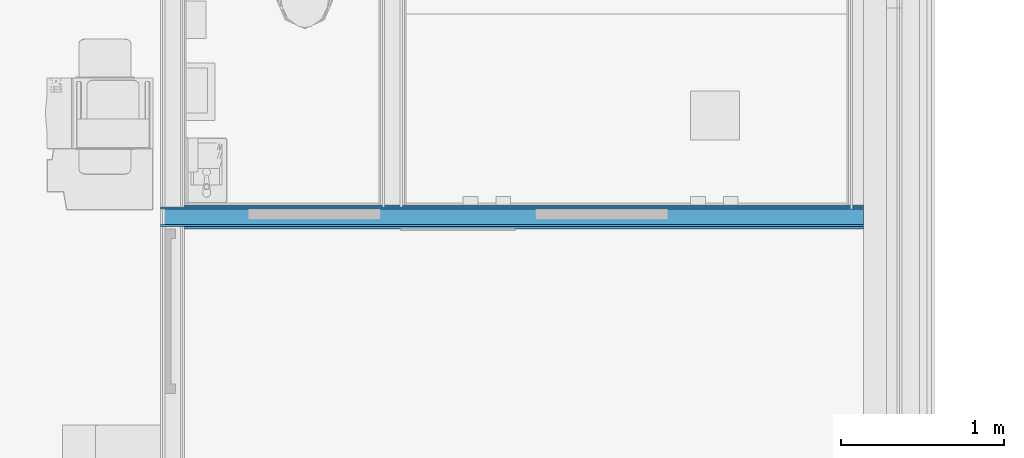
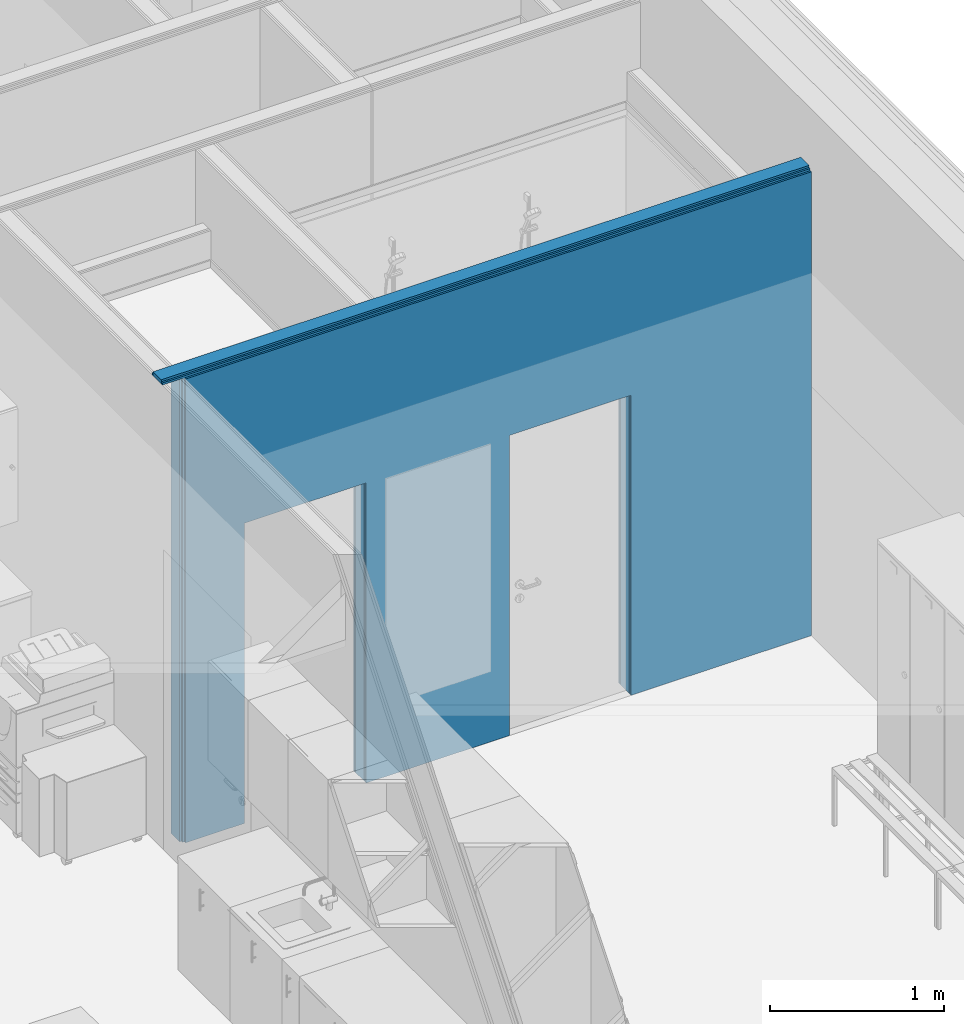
# One storey, part 78 of 153: 5 building element parts, 2 openings, 1 element without a shape of its own.
"""IFC2X3 building model written with IfcOpenShell, lengths in millimetres."""

import ifcopenshell
import ifcopenshell.guid

model = None  # the IFC model being written
_history = None  # IfcOwnerHistory: only IFC2X3 demands one
_inside = {}  # id of a spatial element -> (the spatial element, [elements in it])
_under = {}  # id of a project, library or spatial element -> (it, [spatial elements below it])
_declared = {}  # id of a project -> (the project, [libraries it declares])
_typed = {}  # id of a type object -> (the type object, [elements of that type])
_made_of = {}  # id of a material, layer set ... -> (it, [elements and type objects made of it])


def new_model(schema):
    """Start an empty IFC model of exactly this schema.

    Asked for "IFC4X3", IfcOpenShell would pick the latest addendum, in which some entities
    have other attributes; the version numbers below select the first issue.
    IFC2X3 requires an IfcOwnerHistory on every rooted entity: one is made here for all.
    """
    global model, _history
    if schema == "IFC4X3":
        model = ifcopenshell.file(schema_version=(4, 3, 0, 0))
    else:
        model = ifcopenshell.file(schema=schema)
    _inside.clear()
    _under.clear()
    _declared.clear()
    _typed.clear()
    _made_of.clear()
    _history = None
    if model.schema == "IFC2X3":
        org = make("IfcOrganization", Name="unknown")
        user = make(
            "IfcPersonAndOrganization",
            ThePerson=make("IfcPerson", FamilyName="unknown"),
            TheOrganization=org,
        )
        app = make(
            "IfcApplication",
            ApplicationDeveloper=org,
            Version="unknown",
            ApplicationFullName="unknown",
            ApplicationIdentifier="unknown",
        )
        _history = make(
            "IfcOwnerHistory",
            OwningUser=user,
            OwningApplication=app,
            ChangeAction="ADDED",
            CreationDate=0,
        )
    return model


def make(cls, **values):
    """One entity of the class cls with the attributes given. An attribute that is None is left unset."""
    return model.create_entity(
        cls, **{name: value for name, value in values.items() if value is not None}
    )


def entity(cls, *values):
    """Any entity or typed value of the class cls, its attributes in the order of the schema. None: left unset."""
    e = model.create_entity(cls)
    for i, value in enumerate(values):
        if value is not None:
            e[i] = value
    return e


def rooted(cls, **values):
    """An entity with a GlobalId (a new one), such as an element, a storey or a relation."""
    return make(cls, GlobalId=ifcopenshell.guid.new(), OwnerHistory=_history, **values)


def si_unit(unit_type, name, prefix=None):
    """IfcSIUnit, for example si_unit("LENGTHUNIT", "METRE", prefix="MILLI")."""
    return make("IfcSIUnit", UnitType=unit_type, Prefix=prefix, Name=name)


def converted_unit(unit_type, name, factor, base, dimensions=None, offset=None):
    """IfcConversionBasedUnit, such as the inch: factor (a typed value) times the base unit."""
    return make(
        "IfcConversionBasedUnit"
        if offset is None
        else "IfcConversionBasedUnitWithOffset",
        ConversionOffset=offset,
        Dimensions=None
        if dimensions is None
        else entity("IfcDimensionalExponents", *dimensions),
        UnitType=unit_type,
        Name=name,
        ConversionFactor=make(
            "IfcMeasureWithUnit", ValueComponent=factor, UnitComponent=base
        ),
    )


def derived_unit(unit_type, elements):
    """IfcDerivedUnit: a product of units, each with its exponent."""
    return make(
        "IfcDerivedUnit",
        Elements=[
            make("IfcDerivedUnitElement", Unit=unit, Exponent=power)
            for unit, power in elements
        ],
        UnitType=unit_type,
    )


def money_unit(currency):
    """IfcMonetaryUnit."""
    return make("IfcMonetaryUnit", Currency=currency)


def assignment(units):
    """IfcUnitAssignment: the units of a project."""
    return None if units is None else make("IfcUnitAssignment", Units=units)


def point(xyz):
    """IfcCartesianPoint."""
    return None if xyz is None else make("IfcCartesianPoint", Coordinates=xyz)


def direction(xyz):
    """IfcDirection."""
    return None if xyz is None else make("IfcDirection", DirectionRatios=xyz)


def frame(location, z_axis=None, x_axis=None):
    """IfcAxis2Placement3D, a coordinate frame: its origin and axes. An axis left out is left unset."""
    return make(
        "IfcAxis2Placement3D",
        Location=point(location),
        Axis=direction(z_axis),
        RefDirection=direction(x_axis),
    )


def origin_with_axes():
    """The frame at (0, 0, 0) with the z axis (0, 0, 1) and the x axis (1, 0, 0) written out."""
    return frame((0.0, 0.0, 0.0), z_axis=(0.0, 0.0, 1.0), x_axis=(1.0, 0.0, 0.0))


def place(relative_to, where):
    """IfcLocalPlacement: puts the frame where relative to a parent placement (None: the world)."""
    return make(
        "IfcLocalPlacement", PlacementRelTo=relative_to, RelativePlacement=where
    )


def context(
    kind, dimensions, precision=None, world=None, true_north=None, identifier=None
):
    """IfcGeometricRepresentationContext, for example the 3D "Model" context."""
    return make(
        "IfcGeometricRepresentationContext",
        ContextIdentifier=identifier,
        ContextType=kind,
        CoordinateSpaceDimension=dimensions,
        Precision=precision,
        WorldCoordinateSystem=world,
        TrueNorth=true_north,
    )


def subcontext(parent, identifier, kind, view, scale=None):
    """IfcGeometricRepresentationSubContext, for example "Body" below "Model"."""
    return make(
        "IfcGeometricRepresentationSubContext",
        ContextIdentifier=identifier,
        ContextType=kind,
        ParentContext=parent,
        TargetScale=scale,
        TargetView=view,
    )


def project(units=None, contexts=None):
    """IfcProject with its units and contexts."""
    return rooted(
        "IfcProject",
        Name="project",
        RepresentationContexts=contexts,
        UnitsInContext=assignment(units),
    )


def spatial(cls, under=None, at=None, **own):
    """A site, building, storey or space (cls), placed at a placement, below another one or the project."""
    s = rooted(cls, ObjectPlacement=at, **own)
    if under is not None:
        _under.setdefault(under.id(), (under, []))[1].append(s)
    return s


def faces_of(points, faces, orient=None, outer=None):
    """IfcFace entities. A face is a list of loops; a loop is a list of indices into points, from 0.

    orient and outer hold one flag for each loop. By default every Orientation is true, the
    first loop of a face is its IfcFaceOuterBound and the others are IfcFaceBound.
    """
    made = []
    for i, loops in enumerate(faces):
        bounds = []
        for j, loop in enumerate(loops):
            is_outer = j == 0 if outer is None else outer[i][j]
            bounds.append(
                make(
                    "IfcFaceOuterBound" if is_outer else "IfcFaceBound",
                    Bound=make("IfcPolyLoop", Polygon=[points[k] for k in loop]),
                    Orientation=True if orient is None else orient[i][j],
                )
            )
        made.append(make("IfcFace", Bounds=bounds))
    return made


def faceted_brep(points, faces, orient=None, outer=None, voids=None):
    """IfcFacetedBrep: a solid bounded by flat faces; with voids (closed shells), ...WithVoids."""
    shared = [point(p) for p in points]
    hull = make("IfcClosedShell", CfsFaces=faces_of(shared, faces, orient, outer))
    if voids is None:
        return make("IfcFacetedBrep", Outer=hull)
    return make(
        "IfcFacetedBrepWithVoids",
        Outer=hull,
        Voids=[
            make(cls, CfsFaces=faces_of(shared, fs, o, b)) for cls, fs, o, b in voids
        ],
    )


def shape(context_of_items, identifier, shape_type, items):
    """IfcShapeRepresentation: the items that make up one representation, for example the "Body"."""
    return make(
        "IfcShapeRepresentation",
        ContextOfItems=context_of_items,
        RepresentationIdentifier=identifier,
        RepresentationType=shape_type,
        Items=items,
    )


def material(Name=None, Category=None):
    """IfcMaterial."""
    return make("IfcMaterial", Name=Name, Category=Category)


def made_of(thing, what):
    """Note that an element or type object is made of a material, layer set ...; save() writes the relation."""
    if what is not None:
        _made_of.setdefault(what.id(), (what, []))[1].append(thing)
    return thing


def type_object(cls, material=None, **own):
    """A type object (cls), such as IfcWallType, which elements share."""
    return made_of(rooted(cls, **own), material)


def element(
    cls,
    number,
    at=None,
    inside=None,
    cuts=None,
    type_object=None,
    material=None,
    context=None,
    identifier="Body",
    shape_type=None,
    held_by="IfcProductDefinitionShape",
    body=None,
    shapes=None,
    **own,
):
    """One element of the class cls, such as IfcWall. Its Tag is "e" and its number.

    at: its placement. inside: the storey or other place that contains it. cuts: it is an
    opening in that element (IfcRelVoidsElement). A single representation is given by context,
    identifier, shape_type and body (its items); several are given by shapes. held_by: the class
    of the entity that holds the representations. save() writes the other relations.
    """
    e = rooted(cls, Tag="e%d" % number, ObjectPlacement=at, **own)
    if body is not None:
        shapes = [shape(context, identifier, shape_type, body)]
    if shapes is not None:
        e.Representation = make(held_by, Representations=shapes)
    if inside is not None:
        _inside.setdefault(inside.id(), (inside, []))[1].append(e)
    if cuts is not None:
        rooted(
            "IfcRelVoidsElement", RelatingBuildingElement=cuts, RelatedOpeningElement=e
        )
    if type_object is not None:
        _typed.setdefault(type_object.id(), (type_object, []))[1].append(e)
    return made_of(e, material)


def aggregate(whole, parts):
    """IfcRelAggregates: a whole, such as a stair, and the parts it consists of."""
    return rooted("IfcRelAggregates", RelatingObject=whole, RelatedObjects=parts)


def save(model, path):
    """Write the relations noted so far, then the file.

    IfcRelAggregates (storeys below a building ...), IfcRelContainedInSpatialStructure (elements
    in a storey), IfcRelDefinesByType, IfcRelAssociatesMaterial and IfcRelDeclares: one each for
    every whole, place, type object, material and project.
    """
    for whole, parts in _under.values():
        aggregate(whole, parts)
    for where, things in _inside.values():
        rooted(
            "IfcRelContainedInSpatialStructure",
            RelatedElements=things,
            RelatingStructure=where,
        )
    for kind, things in _typed.values():
        rooted("IfcRelDefinesByType", RelatedObjects=things, RelatingType=kind)
    for what, things in _made_of.values():
        rooted("IfcRelAssociatesMaterial", RelatedObjects=things, RelatingMaterial=what)
    for by, libraries in _declared.values():
        rooted("IfcRelDeclares", RelatingContext=by, RelatedDefinitions=libraries)
    model.write(path)


model = new_model("IFC2X3")

# Units and contexts
model_context = context("Model", 3, precision=0.01, world=origin_with_axes(), true_north=direction((0.0, 1.0)))
body_context = subcontext(model_context, "Body", "Model", "MODEL_VIEW")
ifc_project = project(units=[si_unit("LENGTHUNIT", "METRE", prefix="MILLI"), si_unit("AREAUNIT", "SQUARE_METRE"), si_unit("VOLUMEUNIT", "CUBIC_METRE"), converted_unit("PLANEANGLEUNIT", "DEGREE", entity("IfcPlaneAngleMeasure", 0.0174532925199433), si_unit("PLANEANGLEUNIT", "RADIAN"), dimensions=[0, 0, 0, 0, 0, 0, 0]), money_unit("EUR"), converted_unit("TIMEUNIT", "Year", entity("IfcTimeMeasure", 31557600.0), si_unit("TIMEUNIT", "SECOND"), dimensions=[0, 0, 1, 0, 0, 0, 0]), si_unit("MASSUNIT", "GRAM", prefix="KILO"), si_unit("THERMODYNAMICTEMPERATUREUNIT", "DEGREE_CELSIUS"), si_unit("LUMINOUSINTENSITYUNIT", "LUMEN"), si_unit("ENERGYUNIT", "JOULE", prefix="MEGA"), derived_unit("THERMALCONDUCTANCEUNIT", [(si_unit("POWERUNIT", "WATT"), 1), (si_unit("LENGTHUNIT", "METRE"), -1), (si_unit("THERMODYNAMICTEMPERATUREUNIT", "KELVIN"), -1)]), derived_unit("SPECIFICHEATCAPACITYUNIT", [(si_unit("ENERGYUNIT", "JOULE"), 1), (si_unit("MASSUNIT", "GRAM", prefix="KILO"), -1), (si_unit("THERMODYNAMICTEMPERATUREUNIT", "KELVIN"), -1)]), derived_unit("MASSDENSITYUNIT", [(si_unit("MASSUNIT", "GRAM", prefix="KILO"), 1), (si_unit("VOLUMEUNIT", "CUBIC_METRE"), -1)])], contexts=[model_context])

# Site, building, storey
site_placement = place(None, frame((0.0, 0.0, 8650.0), z_axis=(0.0, 0.0, 1.0), x_axis=(1.0, 0.0, 0.0)))
site = spatial("IfcSite", under=ifc_project, at=site_placement, Name="43301:001:0844", CompositionType="ELEMENT")
building_placement = place(site_placement, origin_with_axes())
building = spatial("IfcBuilding", under=site, at=building_placement, Name="Kuressaare Ametikooli tuulikute mehaanikute õppekorpus", CompositionType="ELEMENT")
storey_placement = place(building_placement, frame((0.0, 0.0, 4100.0), z_axis=(0.0, 0.0, 1.0), x_axis=(1.0, 0.0, 0.0)))
storey = spatial("IfcBuildingStorey", under=building, at=storey_placement, Name="2.korrus", CompositionType="ELEMENT", Elevation=4100.0)

# Wall, openings, building element parts
wall_type = type_object("IfcWallType", Name="SS-2.2 147", PredefinedType="NOTDEFINED")
wall_placement = place(storey_placement, frame((128717.9907946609, 18621.046874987, 0.0), z_axis=(0.0, 0.0, 1.0), x_axis=(1.0, 0.0, 0.0)))
wall = element("IfcWall", 1, at=wall_placement, inside=storey, type_object=wall_type, Name="Sisesein")
opening_1_placement = place(wall_placement, frame((2703.999999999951, 0.0, 0.0), z_axis=(0.0, 0.0, 1.0), x_axis=(1.0, 0.0, 0.0)))
element("IfcOpeningElement", 2, at=opening_1_placement, cuts=wall, Name="NU8", context=body_context, shape_type="Brep", body=[
    faceted_brep([(-405.0000000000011, -147.9999999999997, 2110.0), (-405.0000000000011, -147.9999999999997, 0.0), (405.0000000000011, -147.9999999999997, 0.0), (405.0000000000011, -147.9999999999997, 2110.0), (-405.0000000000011, 1.000000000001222, 2110.0), (-405.0000000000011, 1.000000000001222, 0.0), (405.0000000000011, 1.000000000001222, 0.0), (405.0000000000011, 1.000000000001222, 2110.0)], [[[0, 1, 2, 3]], [[4, 5, 1, 0]], [[5, 6, 2, 1]], [[6, 7, 3, 2]], [[7, 4, 0, 3]], [[6, 5, 4, 7]]]),
])
opening_2_placement = place(wall_placement, frame((941.9999999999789, 0.0, 0.0), z_axis=(0.0, 0.0, 1.0), x_axis=(1.0, 0.0, 0.0)))
element("IfcOpeningElement", 3, at=opening_2_placement, cuts=wall, Name="PU8", context=body_context, shape_type="Brep", body=[
    faceted_brep([(-405.0000000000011, -147.9999999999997, 2110.0), (-405.0000000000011, -147.9999999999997, 0.0), (405.0000000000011, -147.9999999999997, 0.0), (405.0000000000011, -147.9999999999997, 2110.0), (-405.0000000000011, 1.000000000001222, 2110.0), (-405.0000000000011, 1.000000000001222, 0.0), (405.0000000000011, 1.000000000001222, 0.0), (405.0000000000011, 1.000000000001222, 2110.0)], [[[0, 1, 2, 3]], [[4, 5, 1, 0]], [[5, 6, 2, 1]], [[6, 7, 3, 2]], [[7, 4, 0, 3]], [[6, 5, 4, 7]]]),
])
ifc_material_1 = material(Name="Kipsplaat")
building_element_part_1_placement = place(wall_placement, origin_with_axes())
building_element_part_1 = element("IfcBuildingElementPart", 4, at=building_element_part_1_placement, material=ifc_material_1, Name="Kipsplaat", context=body_context, shape_type="Brep", body=[
    faceted_brep([(536.9999999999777, 0.0, 2110.0), (536.9999999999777, 0.0, 0.0), (146.9999999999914, 0.0, 0.0), (146.9999999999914, 0.0, 3260.712739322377), (4306.955643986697, 0.0, 3260.712739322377), (4306.955643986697, 0.0, 2799.999999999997), (4227.9556469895, 0.0, 2799.999999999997), (4227.9556469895, 0.0, 0.0), (3108.999999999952, 0.0, 0.0), (3108.999999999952, 0.0, 2110.0), (2298.99999999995, 0.0, 2110.0), (2298.99999999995, 0.0, 0.0), (1480.999999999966, 0.0, 0.0), (1480.999999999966, 0.0, 3259.999999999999), (1359.999999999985, 0.0, 3259.999999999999), (1359.999999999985, 0.0, 0.0), (1346.99999999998, 0.0, 0.0), (1346.99999999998, 0.0, 2110.0), (536.9999999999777, -12.99999999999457, 2110.0), (536.9999999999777, -13.00000000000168, 0.0), (146.9999999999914, -13.00000000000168, 0.0), (146.9999999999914, -12.99999999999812, 3260.712739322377), (4306.955643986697, -12.99999999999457, 3260.712739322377), (4306.955643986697, -12.99999999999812, 2799.999999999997), (4227.9556469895, -12.99999999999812, 2799.999999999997), (4227.9556469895, -12.99999999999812, 0.0), (3108.999999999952, -12.99999999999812, 0.0), (3108.999999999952, -12.99999999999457, 2110.0), (2298.99999999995, -12.99999999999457, 2110.0), (2298.99999999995, -13.00000000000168, 0.0), (1480.999999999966, -13.00000000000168, 0.0), (1480.999999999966, -12.99999999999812, 3259.999999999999), (1359.999999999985, -12.99999999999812, 3259.999999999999), (1359.999999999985, -13.00000000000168, 0.0), (1346.99999999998, -13.00000000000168, 0.0), (1346.99999999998, -12.99999999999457, 2110.0)], [[[0, 1, 2, 3, 4, 5, 6, 7, 8, 9, 10, 11, 12, 13, 14, 15, 16, 17]], [[1, 0, 18, 19]], [[1, 19, 20, 2]], [[2, 20, 21, 3]], [[3, 21, 22, 4]], [[23, 5, 4, 22]], [[23, 24, 6, 5]], [[25, 7, 6, 24]], [[8, 7, 25, 26]], [[8, 26, 27, 9]], [[9, 27, 28, 10]], [[10, 28, 29, 11]], [[29, 30, 12, 11]], [[12, 30, 31, 13]], [[31, 32, 14, 13]], [[14, 32, 33, 15]], [[34, 16, 15, 33]], [[17, 16, 34, 35]], [[0, 17, 35, 18]], [[35, 34, 33, 32, 31, 30, 29, 28, 27, 26, 25, 24, 23, 22, 21, 20, 19, 18]]]),
])
building_element_part_2_placement = place(wall_placement, origin_with_axes())
building_element_part_2 = element("IfcBuildingElementPart", 5, at=building_element_part_2_placement, material=ifc_material_1, Name="Kipsplaat", context=body_context, shape_type="Brep", body=[
    faceted_brep([(536.9999999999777, -12.99999999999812, 2110.0), (536.9999999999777, -13.00000000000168, 0.0), (133.9999999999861, -13.00000000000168, 0.0), (133.9999999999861, -12.99999999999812, 3260.712739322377), (0.0, -12.99999999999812, 3260.712739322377), (0.0, -12.99999999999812, 3275.712739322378), (4306.955643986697, -12.99999999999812, 3275.712739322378), (4306.955643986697, -12.99999999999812, 2799.999999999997), (4227.9556469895, -12.99999999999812, 2799.999999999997), (4227.9556469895, -12.99999999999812, 0.0), (3108.999999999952, -12.99999999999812, 0.0), (3108.999999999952, -12.99999999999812, 2110.0), (2298.99999999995, -12.99999999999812, 2110.0), (2298.99999999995, -13.00000000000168, 0.0), (1467.999999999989, -13.00000000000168, 0.0), (1467.999999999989, -12.99999999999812, 3259.999999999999), (1372.999999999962, -12.99999999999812, 3259.999999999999), (1372.999999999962, -13.00000000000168, 0.0), (1346.99999999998, -13.00000000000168, 0.0), (1346.99999999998, -12.99999999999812, 2110.0), (536.9999999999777, -25.99999999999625, 2110.0), (536.9999999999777, -26.00000000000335, 0.0), (133.9999999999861, -26.00000000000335, 0.0), (133.9999999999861, -25.9999999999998, 3260.712739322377), (0.0, -25.9999999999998, 3260.712739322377), (0.0, -25.9999999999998, 3275.712739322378), (4306.955643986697, -25.99999999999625, 3275.712739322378), (4306.955643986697, -25.9999999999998, 2799.999999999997), (4227.9556469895, -25.9999999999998, 2799.999999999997), (4227.9556469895, -25.9999999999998, 0.0), (3108.999999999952, -25.9999999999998, 0.0), (3108.999999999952, -25.99999999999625, 2110.0), (2298.99999999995, -25.99999999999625, 2110.0), (2298.99999999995, -25.9999999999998, 0.0), (1467.999999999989, -25.9999999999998, 0.0), (1467.999999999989, -25.9999999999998, 3259.999999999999), (1372.999999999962, -25.9999999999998, 3259.999999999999), (1372.999999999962, -26.00000000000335, 0.0), (1346.99999999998, -26.00000000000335, 0.0), (1346.99999999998, -25.99999999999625, 2110.0)], [[[0, 1, 2, 3, 4, 5, 6, 7, 8, 9, 10, 11, 12, 13, 14, 15, 16, 17, 18, 19]], [[1, 0, 20, 21]], [[1, 21, 22, 2]], [[2, 22, 23, 3]], [[23, 24, 4, 3]], [[4, 24, 25, 5]], [[5, 25, 26, 6]], [[27, 7, 6, 26]], [[27, 28, 8, 7]], [[9, 8, 28, 29]], [[10, 9, 29, 30]], [[10, 30, 31, 11]], [[11, 31, 32, 12]], [[12, 32, 33, 13]], [[33, 34, 14, 13]], [[14, 34, 35, 15]], [[15, 35, 36, 16]], [[16, 36, 37, 17]], [[38, 18, 17, 37]], [[19, 18, 38, 39]], [[0, 19, 39, 20]], [[39, 38, 37, 36, 35, 34, 33, 32, 31, 30, 29, 28, 27, 26, 25, 24, 23, 22, 21, 20]]]),
])
ifc_material_2 = material(Name="Soojustus - Mineraalvill pehme")
building_element_part_3_placement = place(wall_placement, origin_with_axes())
building_element_part_3 = element("IfcBuildingElementPart", 6, at=building_element_part_3_placement, material=ifc_material_2, Name="Soojustus - Mineraalvill pehme", context=body_context, shape_type="Brep", body=[
    faceted_brep([(536.9999999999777, -25.9999999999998, 2110.0), (536.9999999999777, -25.9999999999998, 0.0), (121.0000000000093, -25.9999999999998, 0.0), (121.0000000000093, -25.9999999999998, 3260.712739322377), (0.0, -25.9999999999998, 3260.712739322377), (0.0, -25.9999999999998, 3290.000000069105), (4306.955643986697, -25.9999999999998, 3290.0), (4306.955643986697, -25.9999999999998, 0.0), (3108.999999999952, -25.9999999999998, 0.0), (3108.999999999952, -25.9999999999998, 2110.0), (2298.99999999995, -25.9999999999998, 2110.0), (2298.99999999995, -25.9999999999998, 0.0), (1346.99999999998, -25.9999999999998, 0.0), (1346.99999999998, -25.9999999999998, 2110.0), (536.9999999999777, -120.9999999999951, 2110.0), (536.9999999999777, -120.9999999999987, 0.0), (121.0000000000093, -120.9999999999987, 0.0), (121.0000000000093, -120.9999999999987, 3260.712739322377), (0.0, -120.9999999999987, 3260.712739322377), (0.0, -120.9999999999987, 3290.000000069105), (4306.955643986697, -120.9999999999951, 3290.0), (4306.955643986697, -120.9999999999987, 0.0), (3108.999999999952, -120.9999999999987, 0.0), (3108.999999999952, -120.9999999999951, 2110.0), (2298.99999999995, -120.9999999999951, 2110.0), (2298.99999999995, -120.9999999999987, 0.0), (1346.99999999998, -120.9999999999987, 0.0), (1346.99999999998, -120.9999999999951, 2110.0)], [[[0, 1, 2, 3, 4, 5, 6, 7, 8, 9, 10, 11, 12, 13]], [[1, 0, 14, 15]], [[1, 15, 16, 2]], [[16, 17, 3, 2]], [[18, 4, 3, 17]], [[19, 5, 4, 18]], [[5, 19, 20, 6]], [[21, 7, 6, 20]], [[8, 7, 21, 22]], [[8, 22, 23, 9]], [[9, 23, 24, 10]], [[10, 24, 25, 11]], [[26, 12, 11, 25]], [[13, 12, 26, 27]], [[0, 13, 27, 14]], [[27, 26, 25, 24, 23, 22, 21, 20, 19, 18, 17, 16, 15, 14]]]),
])
building_element_part_4_placement = place(wall_placement, origin_with_axes())
building_element_part_4 = element("IfcBuildingElementPart", 7, at=building_element_part_4_placement, material=ifc_material_1, Name="Kipsplaat", context=body_context, shape_type="Brep", body=[
    faceted_brep([(536.9999999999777, -120.9999999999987, 2110.0), (536.9999999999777, -120.9999999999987, 0.0), (133.9999999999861, -120.9999999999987, 0.0), (133.9999999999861, -120.9999999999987, 3260.712739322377), (0.0, -120.9999999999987, 3260.712739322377), (0.0, -120.9999999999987, 3275.712739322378), (4306.955643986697, -120.9999999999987, 3275.712739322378), (4306.955643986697, -120.9999999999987, 0.0), (3108.999999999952, -120.9999999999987, 0.0), (3108.999999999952, -120.9999999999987, 2110.0), (2298.99999999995, -120.9999999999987, 2110.0), (2298.99999999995, -120.9999999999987, 0.0), (1346.99999999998, -120.9999999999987, 0.0), (1346.99999999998, -120.9999999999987, 2110.0), (536.9999999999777, -133.9999999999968, 2110.0), (536.9999999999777, -134.0000000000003, 0.0), (133.9999999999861, -134.0000000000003, 0.0), (133.9999999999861, -134.0000000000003, 3260.712739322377), (0.0, -134.0000000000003, 3260.712739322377), (0.0, -134.0000000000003, 3275.712739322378), (4306.955643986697, -133.9999999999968, 3275.712739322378), (4306.955643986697, -134.0000000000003, 0.0), (3108.999999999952, -134.0000000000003, 0.0), (3108.999999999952, -133.9999999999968, 2110.0), (2298.99999999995, -133.9999999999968, 2110.0), (2298.99999999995, -134.0000000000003, 0.0), (1346.99999999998, -134.0000000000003, 0.0), (1346.99999999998, -133.9999999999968, 2110.0)], [[[0, 1, 2, 3, 4, 5, 6, 7, 8, 9, 10, 11, 12, 13]], [[1, 0, 14, 15]], [[1, 15, 16, 2]], [[2, 16, 17, 3]], [[17, 18, 4, 3]], [[4, 18, 19, 5]], [[5, 19, 20, 6]], [[21, 7, 6, 20]], [[8, 7, 21, 22]], [[8, 22, 23, 9]], [[9, 23, 24, 10]], [[10, 24, 25, 11]], [[26, 12, 11, 25]], [[13, 12, 26, 27]], [[0, 13, 27, 14]], [[27, 26, 25, 24, 23, 22, 21, 20, 19, 18, 17, 16, 15, 14]]]),
])
building_element_part_5_placement = place(wall_placement, origin_with_axes())
building_element_part_5 = element("IfcBuildingElementPart", 8, at=building_element_part_5_placement, material=ifc_material_1, Name="Kipsplaat", context=body_context, shape_type="Brep", body=[
    faceted_brep([(536.9999999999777, -134.0000000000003, 2110.0), (536.9999999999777, -134.0000000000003, 0.0), (146.9999999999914, -134.0000000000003, 0.0), (146.9999999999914, -134.0000000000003, 3260.712739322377), (4306.955643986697, -134.0000000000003, 3260.712739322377), (4306.955643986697, -134.0000000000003, 0.0), (3108.999999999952, -134.0000000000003, 0.0), (3108.999999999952, -134.0000000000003, 2110.0), (2298.99999999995, -134.0000000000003, 2110.0), (2298.99999999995, -134.0000000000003, 0.0), (1346.99999999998, -134.0000000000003, 0.0), (1346.99999999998, -134.0000000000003, 2110.0), (536.9999999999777, -146.9999999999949, 2110.0), (536.9999999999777, -146.9999999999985, 0.0), (146.9999999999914, -146.9999999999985, 0.0), (146.9999999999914, -146.9999999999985, 3260.712739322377), (4306.955643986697, -146.9999999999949, 3260.712739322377), (4306.955643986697, -146.9999999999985, 0.0), (3108.999999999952, -146.9999999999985, 0.0), (3108.999999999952, -146.9999999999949, 2110.0), (2298.99999999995, -146.9999999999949, 2110.0), (2298.99999999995, -146.9999999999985, 0.0), (1346.99999999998, -146.9999999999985, 0.0), (1346.99999999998, -146.9999999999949, 2110.0)], [[[0, 1, 2, 3, 4, 5, 6, 7, 8, 9, 10, 11]], [[1, 0, 12, 13]], [[1, 13, 14, 2]], [[2, 14, 15, 3]], [[3, 15, 16, 4]], [[17, 5, 4, 16]], [[6, 5, 17, 18]], [[6, 18, 19, 7]], [[7, 19, 20, 8]], [[8, 20, 21, 9]], [[22, 10, 9, 21]], [[11, 10, 22, 23]], [[0, 11, 23, 12]], [[23, 22, 21, 20, 19, 18, 17, 16, 15, 14, 13, 12]]]),
])
aggregate(wall, [building_element_part_1, building_element_part_2, building_element_part_3, building_element_part_4, building_element_part_5])

save(model, "model.ifc")
